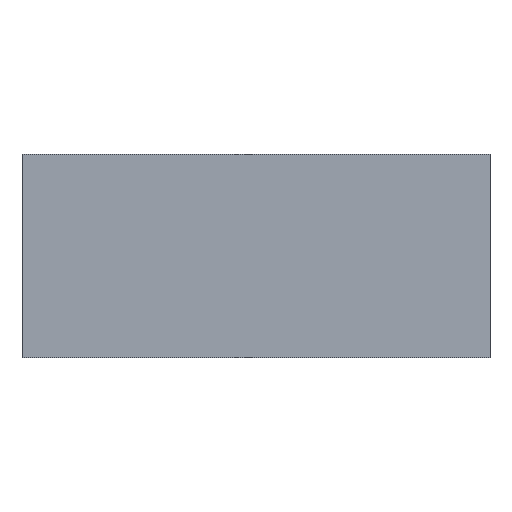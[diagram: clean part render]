
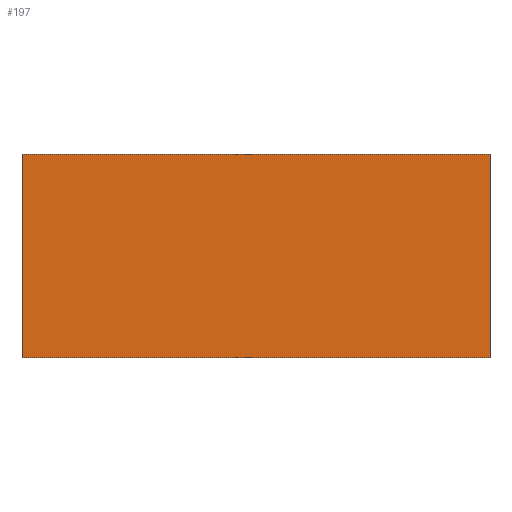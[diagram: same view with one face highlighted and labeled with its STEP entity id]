
A CAD part, top view. The second image highlights one B-rep face of the part: STEP entity #197.
In plain terms, the highlighted planar face has unit normal (0, 0, 1).
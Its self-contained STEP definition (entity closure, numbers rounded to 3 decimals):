
#7 = EDGE_CURVE ( 'NONE', #182, #194, #134, .T. ) ;
#8 = AXIS2_PLACEMENT_3D ( 'NONE', #88, #56, #66 ) ;
#9 = EDGE_CURVE ( 'NONE', #194, #178, #138, .T. ) ;
#23 = EDGE_CURVE ( 'NONE', #172, #182, #113, .T. ) ;
#25 = EDGE_CURVE ( 'NONE', #178, #172, #96, .T. ) ;
#56 = DIRECTION ( 'NONE',  ( 0., 0., -1. ) ) ;
#60 = DIRECTION ( 'NONE',  ( 0., -1., 0. ) ) ;
#61 = CARTESIAN_POINT ( 'NONE',  ( -551., 0., 6. ) ) ;
#66 = DIRECTION ( 'NONE',  ( 0., 1., 0. ) ) ;
#75 = CARTESIAN_POINT ( 'NONE',  ( -551., 479., 6. ) ) ;
#82 = CARTESIAN_POINT ( 'NONE',  ( -551., 0., 6. ) ) ;
#83 = CARTESIAN_POINT ( 'NONE',  ( -551., 0., 6. ) ) ;
#84 = CARTESIAN_POINT ( 'NONE',  ( 551., 0., 6. ) ) ;
#85 = CARTESIAN_POINT ( 'NONE',  ( 551., 479., 6. ) ) ;
#86 = DIRECTION ( 'NONE',  ( 1., 0., 0. ) ) ;
#87 = PLANE ( 'NONE',  #8 ) ;
#88 = CARTESIAN_POINT ( 'NONE',  ( -551., 479., 6. ) ) ;
#95 = VECTOR ( 'NONE', #86, 1000. ) ;
#96 = LINE ( 'NONE', #61, #97 ) ;
#97 = VECTOR ( 'NONE', #60, 1000. ) ;
#99 = ORIENTED_EDGE ( 'NONE', *, *, #7, .T. ) ;
#106 = VECTOR ( 'NONE', #190, 1000. ) ;
#108 = ORIENTED_EDGE ( 'NONE', *, *, #25, .T. ) ;
#113 = LINE ( 'NONE', #82, #95 ) ;
#119 = ORIENTED_EDGE ( 'NONE', *, *, #23, .T. ) ;
#123 = FACE_OUTER_BOUND ( 'NONE', #155, .T. ) ;
#134 = LINE ( 'NONE', #195, #106 ) ;
#138 = LINE ( 'NONE', #191, #153 ) ;
#153 = VECTOR ( 'NONE', #187, 1000. ) ;
#155 = EDGE_LOOP ( 'NONE', ( #108, #119, #99, #157 ) ) ;
#157 = ORIENTED_EDGE ( 'NONE', *, *, #9, .T. ) ;
#172 = VERTEX_POINT ( 'NONE', #83 ) ;
#178 = VERTEX_POINT ( 'NONE', #75 ) ;
#182 = VERTEX_POINT ( 'NONE', #84 ) ;
#187 = DIRECTION ( 'NONE',  ( -1., 0., 0. ) ) ;
#190 = DIRECTION ( 'NONE',  ( 0., 1., 0. ) ) ;
#191 = CARTESIAN_POINT ( 'NONE',  ( -551., 479., 6. ) ) ;
#194 = VERTEX_POINT ( 'NONE', #85 ) ;
#195 = CARTESIAN_POINT ( 'NONE',  ( 551., 0., 6. ) ) ;
#197 = ADVANCED_FACE ( 'NONE', ( #123 ), #87, .F. ) ;
